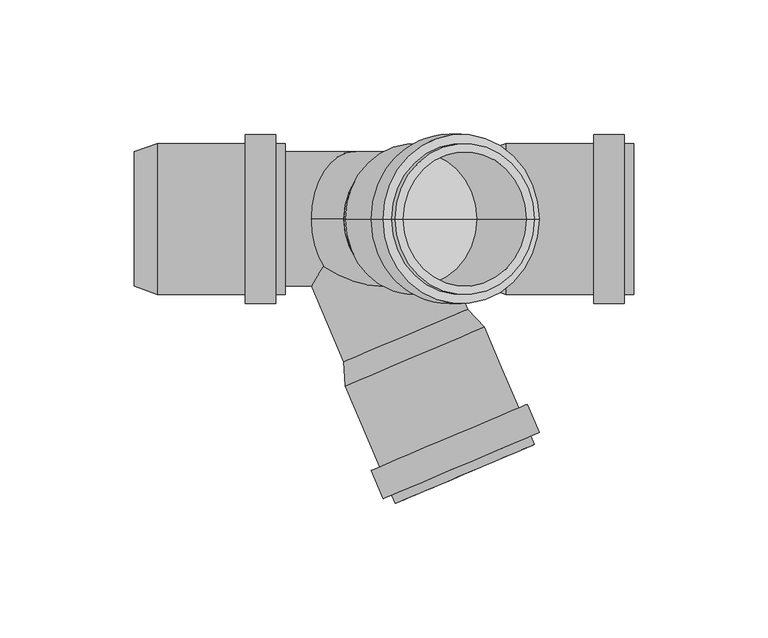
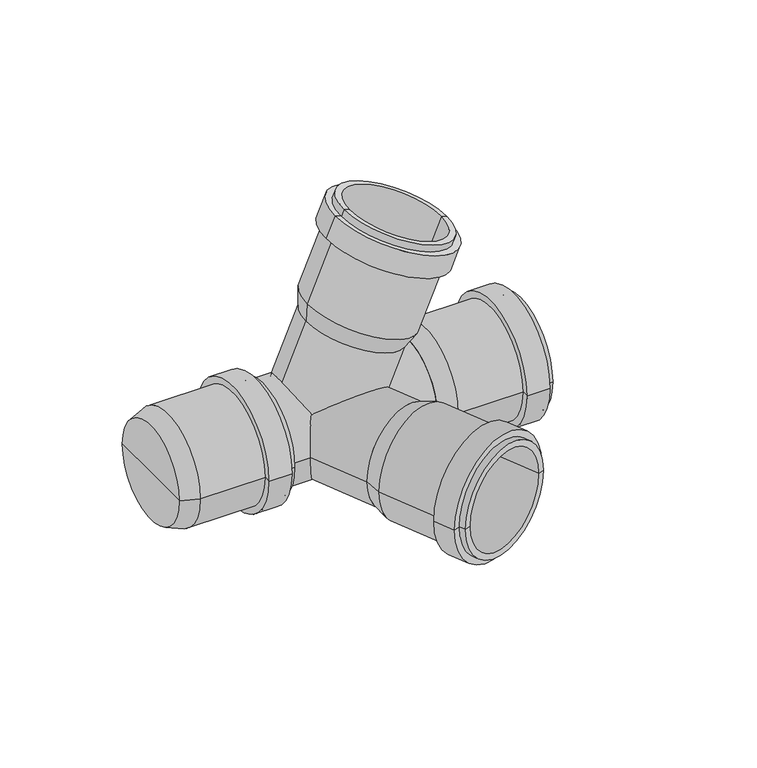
"""IFC4 building model written with IfcOpenShell, lengths in millimetres: pipe fitting geometry, pf_HTED : pf_HTED."""

from ifc_helpers import new_model, si_unit, point, frame, origin, origin_2d, place, context, project, spatial, polyline, circle_curve, trimmed, segment, composite_curve, outline, extrude, source, transform, mapped, element, save
from ifc_brep_helpers import plane_surface, cylinder_surface, revolved_surface, advanced_brep


def pipe_fitting_2f180cf2(model_context):
    return source(origin(), model_context, "Body", "SolidModel", [
        advanced_brep(
        [(41.4160575, 0.0, 33.5875004), (-4.6091852, 0.0, 53.1240568), (-4.1415356, 0.0, 62.1596146), (47.5908371, 0.0, 40.2005251), (18.4034362, 0.0, 43.3557786), (66.1505657, 0.0, 83.9245057), (14.418193, 0.0, 105.8835951), (17.271758, 0.0, 104.6723286), (63.2970007, 0.0, 85.1357722), (64.8220799, 0.0, 80.7947892), (13.0897071, 0.0, 102.7538786), (67.9517964, 0.0, 79.4663033), (9.9599906, 0.0, 104.0823644), (63.4974615, 0.0, 68.972548), (5.5056558, 0.0, 93.5886091), (60.367745, 0.0, 70.3010338), (8.6353723, 0.0, 92.2601233), (44.7372721, 0.0, 41.4117916), (-1.2879706, 0.0, 60.9483481), (21.7246507, 0.0, 51.1800699)],
        [
            (0, 1, circle_curve(frame((18.4034362, 0.0, 43.3557786), z_axis=(0.3907311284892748, 0.0, 0.9205048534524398), x_axis=(-0.9205048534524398, 0.0, 0.3907311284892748)), 25.0)),
            (1, 2),
            (2, 3, circle_curve(frame((21.7246507, 0.0, 51.1800699), z_axis=(-0.3907311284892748, 0.0, -0.9205048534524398), x_axis=(-0.9205048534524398, 0.0, 0.3907311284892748)), 28.1)),
            (3, 0),
            (1, 0, circle_curve(frame((18.4034362, 0.0, 43.3557786), z_axis=(0.3907311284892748, 0.0, 0.9205048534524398), x_axis=(-0.9205048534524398, 0.0, 0.3907311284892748)), 25.0)),
            (3, 2, circle_curve(frame((21.7246507, 0.0, 51.1800699), z_axis=(-0.3907311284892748, 0.0, -0.9205048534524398), x_axis=(-0.9205048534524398, 0.0, 0.3907311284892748)), 28.1)),
            (4, 1),
            (0, 4),
            (5, 6, circle_curve(frame((40.2843793, 0.0, 94.9040504), z_axis=(0.3907311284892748, 0.0, 0.9205048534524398), x_axis=(-0.9205048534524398, 0.0, 0.3907311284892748)), 28.1)),
            (6, 7),
            (7, 8, circle_curve(frame((40.2843793, 0.0, 94.9040504), z_axis=(-0.3907311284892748, 0.0, -0.9205048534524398), x_axis=(-0.9205048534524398, 0.0, 0.3907311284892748)), 25.0)),
            (8, 5),
            (6, 5, circle_curve(frame((40.2843793, 0.0, 94.9040504), z_axis=(0.3907311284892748, 0.0, 0.9205048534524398), x_axis=(-0.9205048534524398, 0.0, 0.3907311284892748)), 28.1)),
            (8, 7, circle_curve(frame((40.2843793, 0.0, 94.9040504), z_axis=(-0.3907311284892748, 0.0, -0.9205048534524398), x_axis=(-0.9205048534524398, 0.0, 0.3907311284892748)), 25.0)),
            (9, 10, circle_curve(frame((38.9558935, 0.0, 91.7743339), z_axis=(0.3907311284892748, 0.0, 0.9205048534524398), x_axis=(-0.9205048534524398, 0.0, 0.3907311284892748)), 28.1)),
            (10, 6),
            (5, 9),
            (10, 9, circle_curve(frame((38.9558935, 0.0, 91.7743339), z_axis=(0.3907311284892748, 0.0, 0.9205048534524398), x_axis=(-0.9205048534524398, 0.0, 0.3907311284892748)), 28.1)),
            (11, 12, circle_curve(frame((38.9558935, 0.0, 91.7743339), z_axis=(0.3907311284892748, 0.0, 0.9205048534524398), x_axis=(-0.9205048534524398, 0.0, 0.3907311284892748)), 31.5)),
            (12, 10),
            (9, 11),
            (12, 11, circle_curve(frame((38.9558935, 0.0, 91.7743339), z_axis=(0.3907311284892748, 0.0, 0.9205048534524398), x_axis=(-0.9205048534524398, 0.0, 0.3907311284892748)), 31.5)),
            (13, 14, circle_curve(frame((34.5015586, 0.0, 81.2805786), z_axis=(0.3907311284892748, 0.0, 0.9205048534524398), x_axis=(-0.9205048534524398, 0.0, 0.3907311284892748)), 31.5)),
            (14, 12),
            (11, 13),
            (14, 13, circle_curve(frame((34.5015586, 0.0, 81.2805786), z_axis=(0.3907311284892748, 0.0, 0.9205048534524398), x_axis=(-0.9205048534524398, 0.0, 0.3907311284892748)), 31.5)),
            (15, 16, circle_curve(frame((34.5015586, 0.0, 81.2805786), z_axis=(0.3907311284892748, 0.0, 0.9205048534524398), x_axis=(-0.9205048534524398, 0.0, 0.3907311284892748)), 28.1)),
            (16, 14),
            (13, 15),
            (16, 15, circle_curve(frame((34.5015586, 0.0, 81.2805786), z_axis=(0.3907311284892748, 0.0, 0.9205048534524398), x_axis=(-0.9205048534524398, 0.0, 0.3907311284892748)), 28.1)),
            (2, 16),
            (15, 3),
            (17, 18, circle_curve(frame((21.7246507, 0.0, 51.1800699), z_axis=(0.3907311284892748, 0.0, 0.9205048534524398), x_axis=(-0.9205048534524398, 0.0, 0.3907311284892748)), 25.0)),
            (18, 19),
            (19, 17),
            (18, 17, circle_curve(frame((21.7246507, 0.0, 51.1800699), z_axis=(0.3907311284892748, 0.0, 0.9205048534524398), x_axis=(-0.9205048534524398, 0.0, 0.3907311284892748)), 25.0)),
            (7, 18),
            (17, 8),
        ],
        [
            revolved_surface(polyline([(-4.1415356, 0.0, 62.1596146), (-4.6091852, 0.0, 53.1240568)]), (18.4034362, 0.0, 43.3557786), (-0.3907311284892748, 0.0, -0.9205048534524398)),
            plane_surface(frame((18.4034362, 0.0, 43.3557786), z_axis=(-0.3907311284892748, 0.0, -0.9205048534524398), x_axis=(-0.9205048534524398, 0.0, 0.3907311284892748))),
            plane_surface(frame((40.2843793, 0.0, 94.9040504), z_axis=(0.3907311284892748, 0.0, 0.9205048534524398), x_axis=(-0.9205048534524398, 0.0, 0.3907311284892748))),
            cylinder_surface(frame((18.4034362, 0.0, 43.3557786), z_axis=(-0.3907311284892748, 0.0, -0.9205048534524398), x_axis=(-0.9205048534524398, 0.0, 0.3907311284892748)), 28.1),
            plane_surface(frame((38.9558935, 0.0, 91.7743339), z_axis=(0.3907311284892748, 0.0, 0.9205048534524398), x_axis=(-0.9205048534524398, 0.0, 0.3907311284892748))),
            cylinder_surface(frame((18.4034362, 0.0, 43.3557786), z_axis=(-0.3907311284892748, 0.0, -0.9205048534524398), x_axis=(-0.9205048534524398, 0.0, 0.3907311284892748)), 31.5),
            plane_surface(frame((34.5015586, 0.0, 81.2805786), z_axis=(-0.3907311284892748, 0.0, -0.9205048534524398), x_axis=(-0.9205048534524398, 0.0, 0.3907311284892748))),
            plane_surface(frame((21.7246507, 0.0, 51.1800699), z_axis=(0.3907311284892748, 0.0, 0.9205048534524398), x_axis=(-0.9205048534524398, 0.0, 0.3907311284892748))),
            revolved_surface(polyline([(-1.2879705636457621, 0.0, 60.948348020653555), (17.27175806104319, 0.0, 104.67232861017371)]), (18.4034362, 0.0, 43.3557786), (-0.3907311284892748, 0.0, -0.9205048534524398)),
        ],
        [
            (0, [[1, 2, 3, 4]]),
            (0, [[5, -4, 6, -2]]),
            (1, [[7, -1, 8]]),
            (1, [[-8, -5, -7]]),
            (2, [[9, 10, 11, 12]]),
            (2, [[13, -12, 14, -10]]),
            (3, [[15, 16, -9, 17]]),
            (3, [[18, -17, -13, -16]]),
            (4, [[19, 20, -15, 21]]),
            (4, [[22, -21, -18, -20]]),
            (5, [[23, 24, -19, 25]]),
            (5, [[26, -25, -22, -24]]),
            (6, [[27, 28, -23, 29]]),
            (6, [[30, -29, -26, -28]]),
            (3, [[-3, 31, -27, 32]]),
            (3, [[-6, -32, -30, -31]]),
            (7, [[33, 34, 35]]),
            (7, [[36, -35, -34]]),
            (8, [[-11, 37, -33, 38]]),
            (8, [[-14, -38, -36, -37]]),
        ],
    ),
        advanced_brep(
        [(-4.6091852, -53.1240568, 0.0), (41.4160575, -33.5875004, 0.0), (47.5908371, -40.2005251, 0.0), (-4.1415356, -62.1596146, 0.0), (18.4034362, -43.3557786, 0.0), (14.418193, -105.8835951, 0.0), (66.1505657, -83.9245057, 0.0), (63.2970007, -85.1357722, 0.0), (17.271758, -104.6723286, 0.0), (13.0897071, -102.7538786, 0.0), (64.8220799, -80.7947892, 0.0), (9.9599906, -104.0823644, 0.0), (67.9517964, -79.4663033, 0.0), (5.5056558, -93.5886091, 0.0), (63.4974615, -68.972548, 0.0), (8.6353723, -92.2601233, 0.0), (60.367745, -70.3010338, 0.0), (-1.2879706, -60.9483481, 0.0), (44.7372721, -41.4117916, 0.0), (21.7246507, -51.1800699, 0.0)],
        [
            (0, 1, circle_curve(frame((18.4034362, -43.3557786, 0.0), z_axis=(0.3907311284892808, -0.9205048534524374, 0.0), x_axis=(0.9205048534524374, 0.3907311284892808, 0.0)), 25.0)),
            (1, 2),
            (2, 3, circle_curve(frame((21.7246507, -51.1800699, 0.0), z_axis=(-0.3907311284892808, 0.9205048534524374, 0.0), x_axis=(0.9205048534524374, 0.3907311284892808, 0.0)), 28.1)),
            (3, 0),
            (1, 0, circle_curve(frame((18.4034362, -43.3557786, 0.0), z_axis=(0.3907311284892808, -0.9205048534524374, 0.0), x_axis=(0.9205048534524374, 0.3907311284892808, 0.0)), 25.0)),
            (3, 2, circle_curve(frame((21.7246507, -51.1800699, 0.0), z_axis=(-0.3907311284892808, 0.9205048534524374, 0.0), x_axis=(0.9205048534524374, 0.3907311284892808, 0.0)), 28.1)),
            (4, 1),
            (0, 4),
            (5, 6, circle_curve(frame((40.2843793, -94.9040504, 0.0), z_axis=(0.3907311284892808, -0.9205048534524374, 0.0), x_axis=(0.9205048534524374, 0.3907311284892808, 0.0)), 28.1)),
            (6, 7),
            (7, 8, circle_curve(frame((40.2843793, -94.9040504, 0.0), z_axis=(-0.3907311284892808, 0.9205048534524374, 0.0), x_axis=(0.9205048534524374, 0.3907311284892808, 0.0)), 25.0)),
            (8, 5),
            (6, 5, circle_curve(frame((40.2843793, -94.9040504, 0.0), z_axis=(0.3907311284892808, -0.9205048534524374, 0.0), x_axis=(0.9205048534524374, 0.3907311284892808, 0.0)), 28.1)),
            (8, 7, circle_curve(frame((40.2843793, -94.9040504, 0.0), z_axis=(-0.3907311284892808, 0.9205048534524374, 0.0), x_axis=(0.9205048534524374, 0.3907311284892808, 0.0)), 25.0)),
            (9, 10, circle_curve(frame((38.9558935, -91.7743339, 0.0), z_axis=(0.3907311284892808, -0.9205048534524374, 0.0), x_axis=(0.9205048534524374, 0.3907311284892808, 0.0)), 28.1)),
            (10, 6),
            (5, 9),
            (10, 9, circle_curve(frame((38.9558935, -91.7743339, 0.0), z_axis=(0.3907311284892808, -0.9205048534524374, 0.0), x_axis=(0.9205048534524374, 0.3907311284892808, 0.0)), 28.1)),
            (11, 12, circle_curve(frame((38.9558935, -91.7743339, 0.0), z_axis=(0.3907311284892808, -0.9205048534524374, 0.0), x_axis=(0.9205048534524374, 0.3907311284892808, 0.0)), 31.5)),
            (12, 10),
            (9, 11),
            (12, 11, circle_curve(frame((38.9558935, -91.7743339, 0.0), z_axis=(0.3907311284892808, -0.9205048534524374, 0.0), x_axis=(0.9205048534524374, 0.3907311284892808, 0.0)), 31.5)),
            (13, 14, circle_curve(frame((34.5015586, -81.2805786, 0.0), z_axis=(0.3907311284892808, -0.9205048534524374, 0.0), x_axis=(0.9205048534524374, 0.3907311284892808, 0.0)), 31.5)),
            (14, 12),
            (11, 13),
            (14, 13, circle_curve(frame((34.5015586, -81.2805786, 0.0), z_axis=(0.3907311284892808, -0.9205048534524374, 0.0), x_axis=(0.9205048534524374, 0.3907311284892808, 0.0)), 31.5)),
            (15, 16, circle_curve(frame((34.5015586, -81.2805786, 0.0), z_axis=(0.3907311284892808, -0.9205048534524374, 0.0), x_axis=(0.9205048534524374, 0.3907311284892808, 0.0)), 28.1)),
            (16, 14),
            (13, 15),
            (16, 15, circle_curve(frame((34.5015586, -81.2805786, 0.0), z_axis=(0.3907311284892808, -0.9205048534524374, 0.0), x_axis=(0.9205048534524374, 0.3907311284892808, 0.0)), 28.1)),
            (2, 16),
            (15, 3),
            (17, 18, circle_curve(frame((21.7246507, -51.1800699, 0.0), z_axis=(0.3907311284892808, -0.9205048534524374, 0.0), x_axis=(0.9205048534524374, 0.3907311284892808, 0.0)), 25.0)),
            (18, 19),
            (19, 17),
            (18, 17, circle_curve(frame((21.7246507, -51.1800699, 0.0), z_axis=(0.3907311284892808, -0.9205048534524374, 0.0), x_axis=(0.9205048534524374, 0.3907311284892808, 0.0)), 25.0)),
            (7, 18),
            (17, 8),
        ],
        [
            revolved_surface(polyline([(47.5908371, -40.2005251, 0.0), (41.4160575, -33.5875004, 0.0)]), (18.4034362, -43.3557786, 0.0), (-0.3907311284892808, 0.9205048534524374, 0.0)),
            plane_surface(frame((18.4034362, -43.3557786, 0.0), z_axis=(-0.3907311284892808, 0.9205048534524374, 0.0), x_axis=(0.9205048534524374, 0.3907311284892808, 0.0))),
            plane_surface(frame((40.2843793, -94.9040504, 0.0), z_axis=(0.3907311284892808, -0.9205048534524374, 0.0), x_axis=(0.9205048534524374, 0.3907311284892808, 0.0))),
            cylinder_surface(frame((18.4034362, -43.3557786, 0.0), z_axis=(-0.3907311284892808, 0.9205048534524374, 0.0), x_axis=(0.9205048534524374, 0.3907311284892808, 0.0)), 28.1),
            plane_surface(frame((38.9558935, -91.7743339, 0.0), z_axis=(0.3907311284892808, -0.9205048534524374, 0.0), x_axis=(0.9205048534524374, 0.3907311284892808, 0.0))),
            cylinder_surface(frame((18.4034362, -43.3557786, 0.0), z_axis=(-0.3907311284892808, 0.9205048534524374, 0.0), x_axis=(0.9205048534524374, 0.3907311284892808, 0.0)), 31.5),
            plane_surface(frame((34.5015586, -81.2805786, 0.0), z_axis=(-0.3907311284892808, 0.9205048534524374, 0.0), x_axis=(0.9205048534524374, 0.3907311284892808, 0.0))),
            plane_surface(frame((21.7246507, -51.1800699, 0.0), z_axis=(0.3907311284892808, -0.9205048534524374, 0.0), x_axis=(0.9205048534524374, 0.3907311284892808, 0.0))),
            revolved_surface(polyline([(44.737272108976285, -41.41179159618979, 0.0), (63.29700073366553, -85.13577218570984, 0.0)]), (18.4034362, -43.3557786, 0.0), (-0.3907311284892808, 0.9205048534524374, 0.0)),
        ],
        [
            (0, [[1, 2, 3, 4]]),
            (0, [[5, -4, 6, -2]]),
            (1, [[7, -1, 8]]),
            (1, [[-8, -5, -7]]),
            (2, [[9, 10, 11, 12]]),
            (2, [[13, -12, 14, -10]]),
            (3, [[15, 16, -9, 17]]),
            (3, [[18, -17, -13, -16]]),
            (4, [[19, 20, -15, 21]]),
            (4, [[22, -21, -18, -20]]),
            (5, [[23, 24, -19, 25]]),
            (5, [[26, -25, -22, -24]]),
            (6, [[27, 28, -23, 29]]),
            (6, [[30, -29, -26, -28]]),
            (3, [[-3, 31, -27, 32]]),
            (3, [[-6, -32, -30, -31]]),
            (7, [[33, 34, 35]]),
            (7, [[36, -35, -34]]),
            (8, [[-11, 37, -33, 38]]),
            (8, [[-14, -38, -36, -37]]),
        ],
    ),
        advanced_brep(
        [(47.1, -25.0, 0.0), (47.1, 25.0, 0.0), (55.6, 28.1, 0.0), (55.6, -28.1, 0.0), (47.1, 0.0, 0.0), (103.1, -28.1, 0.0), (103.1, 28.1, 0.0), (103.1, 25.0, 0.0), (103.1, -25.0, 0.0), (99.7, -28.1, 0.0), (99.7, 28.1, 0.0), (99.7, -31.5, 0.0), (99.7, 31.5, 0.0), (88.3, -31.5, 0.0), (88.3, 31.5, 0.0), (88.3, -28.1, 0.0), (88.3, 28.1, 0.0), (55.6, -25.0, 0.0), (55.6, 25.0, 0.0), (55.6, 0.0, 0.0)],
        [
            (0, 1, circle_curve(frame((47.1, 0.0, 0.0), z_axis=(1.0, 0.0, 0.0), x_axis=(0.0, 1.0, 0.0)), 25.0)),
            (1, 2),
            (2, 3, circle_curve(frame((55.6, 0.0, 0.0), z_axis=(-1.0, 0.0, 0.0), x_axis=(0.0, 1.0, 0.0)), 28.1)),
            (3, 0),
            (1, 0, circle_curve(frame((47.1, 0.0, 0.0), z_axis=(1.0, 0.0, 0.0), x_axis=(0.0, 1.0, 0.0)), 25.0)),
            (3, 2, circle_curve(frame((55.6, 0.0, 0.0), z_axis=(-1.0, 0.0, 0.0), x_axis=(0.0, 1.0, 0.0)), 28.1)),
            (4, 1),
            (0, 4),
            (5, 6, circle_curve(frame((103.1, 0.0, 0.0), z_axis=(1.0, 0.0, 0.0), x_axis=(0.0, 1.0, 0.0)), 28.1)),
            (6, 7),
            (7, 8, circle_curve(frame((103.1, 0.0, 0.0), z_axis=(-1.0, 0.0, 0.0), x_axis=(0.0, 1.0, 0.0)), 25.0)),
            (8, 5),
            (6, 5, circle_curve(frame((103.1, 0.0, 0.0), z_axis=(1.0, 0.0, 0.0), x_axis=(0.0, 1.0, 0.0)), 28.1)),
            (8, 7, circle_curve(frame((103.1, 0.0, 0.0), z_axis=(-1.0, 0.0, 0.0), x_axis=(0.0, 1.0, 0.0)), 25.0)),
            (9, 10, circle_curve(frame((99.7, 0.0, 0.0), z_axis=(1.0, 0.0, 0.0), x_axis=(0.0, 1.0, 0.0)), 28.1)),
            (10, 6),
            (5, 9),
            (10, 9, circle_curve(frame((99.7, 0.0, 0.0), z_axis=(1.0, 0.0, 0.0), x_axis=(0.0, 1.0, 0.0)), 28.1)),
            (11, 12, circle_curve(frame((99.7, 0.0, 0.0), z_axis=(1.0, 0.0, 0.0), x_axis=(0.0, 1.0, 0.0)), 31.5)),
            (12, 10),
            (9, 11),
            (12, 11, circle_curve(frame((99.7, 0.0, 0.0), z_axis=(1.0, 0.0, 0.0), x_axis=(0.0, 1.0, 0.0)), 31.5)),
            (13, 14, circle_curve(frame((88.3, 0.0, 0.0), z_axis=(1.0, 0.0, 0.0), x_axis=(0.0, 1.0, 0.0)), 31.5)),
            (14, 12),
            (11, 13),
            (14, 13, circle_curve(frame((88.3, 0.0, 0.0), z_axis=(1.0, 0.0, 0.0), x_axis=(0.0, 1.0, 0.0)), 31.5)),
            (15, 16, circle_curve(frame((88.3, 0.0, 0.0), z_axis=(1.0, 0.0, 0.0), x_axis=(0.0, 1.0, 0.0)), 28.1)),
            (16, 14),
            (13, 15),
            (16, 15, circle_curve(frame((88.3, 0.0, 0.0), z_axis=(1.0, 0.0, 0.0), x_axis=(0.0, 1.0, 0.0)), 28.1)),
            (2, 16),
            (15, 3),
            (17, 18, circle_curve(frame((55.6, 0.0, 0.0), z_axis=(1.0, 0.0, 0.0), x_axis=(0.0, 1.0, 0.0)), 25.0)),
            (18, 19),
            (19, 17),
            (18, 17, circle_curve(frame((55.6, 0.0, 0.0), z_axis=(1.0, 0.0, 0.0), x_axis=(0.0, 1.0, 0.0)), 25.0)),
            (7, 18),
            (17, 8),
        ],
        [
            revolved_surface(polyline([(55.6, 28.1, 0.0), (47.1, 25.0, 0.0)]), (47.1, 0.0, 0.0), (-1.0, 0.0, 0.0)),
            plane_surface(frame((47.1, 0.0, 0.0), z_axis=(-1.0, 0.0, 0.0), x_axis=(0.0, 1.0, 0.0))),
            plane_surface(frame((103.1, 0.0, 0.0), z_axis=(1.0, 0.0, 0.0), x_axis=(0.0, 1.0, 0.0))),
            cylinder_surface(frame((47.1, 0.0, 0.0), z_axis=(-1.0, 0.0, 0.0), x_axis=(0.0, 1.0, 0.0)), 28.1),
            plane_surface(frame((99.7, 0.0, 0.0), z_axis=(1.0, 0.0, 0.0), x_axis=(0.0, 1.0, 0.0))),
            cylinder_surface(frame((47.1, 0.0, 0.0), z_axis=(-1.0, 0.0, 0.0), x_axis=(0.0, 1.0, 0.0)), 31.5),
            plane_surface(frame((88.3, 0.0, 0.0), z_axis=(-1.0, 0.0, 0.0), x_axis=(0.0, 1.0, 0.0))),
            plane_surface(frame((55.6, 0.0, 0.0), z_axis=(1.0, 0.0, 0.0), x_axis=(0.0, 1.0, 0.0))),
            revolved_surface(polyline([(55.6, 25.0, 0.0), (103.1, 25.0, 0.0)]), (47.1, 0.0, 0.0), (-1.0, 0.0, 0.0)),
        ],
        [
            (0, [[1, 2, 3, 4]]),
            (0, [[5, -4, 6, -2]]),
            (1, [[7, -1, 8]]),
            (1, [[-8, -5, -7]]),
            (2, [[9, 10, 11, 12]]),
            (2, [[13, -12, 14, -10]]),
            (3, [[15, 16, -9, 17]]),
            (3, [[18, -17, -13, -16]]),
            (4, [[19, 20, -15, 21]]),
            (4, [[22, -21, -18, -20]]),
            (5, [[23, 24, -19, 25]]),
            (5, [[26, -25, -22, -24]]),
            (6, [[27, 28, -23, 29]]),
            (6, [[30, -29, -26, -28]]),
            (3, [[-3, 31, -27, 32]]),
            (3, [[-6, -32, -30, -31]]),
            (7, [[33, 34, 35]]),
            (7, [[36, -35, -34]]),
            (8, [[-11, 37, -33, 38]]),
            (8, [[-14, -38, -36, -37]]),
        ],
    ),
        advanced_brep(
        [(-82.5, -25.0, 0.0), (-82.5, 25.0, 0.0), (-74.0, 28.1, 0.0), (-74.0, -28.1, 0.0), (-82.5, 0.0, 0.0), (-26.5, -28.1, 0.0), (-26.5, 28.1, 0.0), (-26.5, 25.0, 0.0), (-26.5, -25.0, 0.0), (-29.9, -28.1, 0.0), (-29.9, 28.1, 0.0), (-29.9, -31.5, 0.0), (-29.9, 31.5, 0.0), (-41.3, -31.5, 0.0), (-41.3, 31.5, 0.0), (-41.3, -28.1, 0.0), (-41.3, 28.1, 0.0), (-74.0, -25.0, 0.0), (-74.0, 25.0, 0.0), (-74.0, 0.0, 0.0)],
        [
            (0, 1, circle_curve(frame((-82.5, 0.0, 0.0), z_axis=(1.0, 0.0, 0.0), x_axis=(0.0, 1.0, 0.0)), 25.0)),
            (1, 2),
            (2, 3, circle_curve(frame((-74.0, 0.0, 0.0), z_axis=(-1.0, 0.0, 0.0), x_axis=(0.0, 1.0, 0.0)), 28.1)),
            (3, 0),
            (1, 0, circle_curve(frame((-82.5, 0.0, 0.0), z_axis=(1.0, 0.0, 0.0), x_axis=(0.0, 1.0, 0.0)), 25.0)),
            (3, 2, circle_curve(frame((-74.0, 0.0, 0.0), z_axis=(-1.0, 0.0, 0.0), x_axis=(0.0, 1.0, 0.0)), 28.1)),
            (4, 1),
            (0, 4),
            (5, 6, circle_curve(frame((-26.5, 0.0, 0.0), z_axis=(1.0, 0.0, 0.0), x_axis=(0.0, 1.0, 0.0)), 28.1)),
            (6, 7),
            (7, 8, circle_curve(frame((-26.5, 0.0, 0.0), z_axis=(-1.0, 0.0, 0.0), x_axis=(0.0, 1.0, 0.0)), 25.0)),
            (8, 5),
            (6, 5, circle_curve(frame((-26.5, 0.0, 0.0), z_axis=(1.0, 0.0, 0.0), x_axis=(0.0, 1.0, 0.0)), 28.1)),
            (8, 7, circle_curve(frame((-26.5, 0.0, 0.0), z_axis=(-1.0, 0.0, 0.0), x_axis=(0.0, 1.0, 0.0)), 25.0)),
            (9, 10, circle_curve(frame((-29.9, 0.0, 0.0), z_axis=(1.0, 0.0, 0.0), x_axis=(0.0, 1.0, 0.0)), 28.1)),
            (10, 6),
            (5, 9),
            (10, 9, circle_curve(frame((-29.9, 0.0, 0.0), z_axis=(1.0, 0.0, 0.0), x_axis=(0.0, 1.0, 0.0)), 28.1)),
            (11, 12, circle_curve(frame((-29.9, 0.0, 0.0), z_axis=(1.0, 0.0, 0.0), x_axis=(0.0, 1.0, 0.0)), 31.5)),
            (12, 10),
            (9, 11),
            (12, 11, circle_curve(frame((-29.9, 0.0, 0.0), z_axis=(1.0, 0.0, 0.0), x_axis=(0.0, 1.0, 0.0)), 31.5)),
            (13, 14, circle_curve(frame((-41.3, 0.0, 0.0), z_axis=(1.0, 0.0, 0.0), x_axis=(0.0, 1.0, 0.0)), 31.5)),
            (14, 12),
            (11, 13),
            (14, 13, circle_curve(frame((-41.3, 0.0, 0.0), z_axis=(1.0, 0.0, 0.0), x_axis=(0.0, 1.0, 0.0)), 31.5)),
            (15, 16, circle_curve(frame((-41.3, 0.0, 0.0), z_axis=(1.0, 0.0, 0.0), x_axis=(0.0, 1.0, 0.0)), 28.1)),
            (16, 14),
            (13, 15),
            (16, 15, circle_curve(frame((-41.3, 0.0, 0.0), z_axis=(1.0, 0.0, 0.0), x_axis=(0.0, 1.0, 0.0)), 28.1)),
            (2, 16),
            (15, 3),
            (17, 18, circle_curve(frame((-74.0, 0.0, 0.0), z_axis=(1.0, 0.0, 0.0), x_axis=(0.0, 1.0, 0.0)), 25.0)),
            (18, 19),
            (19, 17),
            (18, 17, circle_curve(frame((-74.0, 0.0, 0.0), z_axis=(1.0, 0.0, 0.0), x_axis=(0.0, 1.0, 0.0)), 25.0)),
            (7, 18),
            (17, 8),
        ],
        [
            revolved_surface(polyline([(-74.0, 28.1, 0.0), (-82.5, 25.0, 0.0)]), (-82.5, 0.0, 0.0), (-1.0, 0.0, 0.0)),
            plane_surface(frame((-82.5, 0.0, 0.0), z_axis=(-1.0, 0.0, 0.0), x_axis=(0.0, 1.0, 0.0))),
            plane_surface(frame((-26.5, 0.0, 0.0), z_axis=(1.0, 0.0, 0.0), x_axis=(0.0, 1.0, 0.0))),
            cylinder_surface(frame((-82.5, 0.0, 0.0), z_axis=(-1.0, 0.0, 0.0), x_axis=(0.0, 1.0, 0.0)), 28.1),
            plane_surface(frame((-29.9, 0.0, 0.0), z_axis=(1.0, 0.0, 0.0), x_axis=(0.0, 1.0, 0.0))),
            cylinder_surface(frame((-82.5, 0.0, 0.0), z_axis=(-1.0, 0.0, 0.0), x_axis=(0.0, 1.0, 0.0)), 31.5),
            plane_surface(frame((-41.3, 0.0, 0.0), z_axis=(-1.0, 0.0, 0.0), x_axis=(0.0, 1.0, 0.0))),
            plane_surface(frame((-74.0, 0.0, 0.0), z_axis=(1.0, 0.0, 0.0), x_axis=(0.0, 1.0, 0.0))),
            revolved_surface(polyline([(-74.0, 25.0, 0.0), (-26.5, 25.0, 0.0)]), (-82.5, 0.0, 0.0), (-1.0, 0.0, 0.0)),
        ],
        [
            (0, [[1, 2, 3, 4]]),
            (0, [[5, -4, 6, -2]]),
            (1, [[7, -1, 8]]),
            (1, [[-8, -5, -7]]),
            (2, [[9, 10, 11, 12]]),
            (2, [[13, -12, 14, -10]]),
            (3, [[15, 16, -9, 17]]),
            (3, [[18, -17, -13, -16]]),
            (4, [[19, 20, -15, 21]]),
            (4, [[22, -21, -18, -20]]),
            (5, [[23, 24, -19, 25]]),
            (5, [[26, -25, -22, -24]]),
            (6, [[27, 28, -23, 29]]),
            (6, [[30, -29, -26, -28]]),
            (3, [[-3, 31, -27, 32]]),
            (3, [[-6, -32, -30, -31]]),
            (7, [[33, 34, 35]]),
            (7, [[36, -35, -34]]),
            (8, [[-11, 37, -33, 38]]),
            (8, [[-14, -38, -36, -37]]),
        ],
    ),
        extrude(outline(composite_curve([segment(trimmed(circle_curve(origin_2d(), 25.0), [point((0.0, 25.0))], [point((0.0, -25.0))], False, "CARTESIAN"), True, "CONTINUOUS"), segment(trimmed(circle_curve(origin_2d(), 25.0), [point((0.0, -25.0))], [point((0.0, 25.0))], False, "CARTESIAN"), True, "CONTINUOUS")], self_intersect=False)), frame((0.0, 0.0, 0.0), z_axis=(0.3907311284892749, 0.0, 0.9205048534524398), x_axis=(0.0, -1.0, 0.0)), (0.0, 0.0, 1.0), 47.1),
        extrude(outline(composite_curve([segment(trimmed(circle_curve(origin_2d(), 25.0), [point((0.0, -25.0000001))], [point((0.0, 25.0))], False, "CARTESIAN"), True, "CONTINUOUS"), segment(trimmed(circle_curve(origin_2d(), 25.0), [point((0.0, 25.0))], [point((0.0, -25.0000001))], False, "CARTESIAN"), True, "CONTINUOUS")], self_intersect=False)), frame((18.4034362, -43.3557786, 0.0), z_axis=(-0.39073112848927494, 0.9205048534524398, 0.0), x_axis=(0.0, 0.0, 1.0)), (0.0, 0.0, 1.0), 47.1),
        extrude(outline(composite_curve([segment(trimmed(circle_curve(origin_2d(), 25.0), [point((-25.0, 0.0))], [point((25.0, 0.0))], False, "CARTESIAN"), True, "CONTINUOUS"), segment(trimmed(circle_curve(origin_2d(), 25.0), [point((25.0, 0.0))], [point((-25.0, 0.0))], False, "CARTESIAN"), True, "CONTINUOUS")], self_intersect=False)), frame((-74.0, 0.0, 0.0), z_axis=(1.0, 0.0, 0.0), x_axis=(0.0, 1.0, 0.0)), (0.0, 0.0, 1.0), 121.1),
    ])


if __name__ == "__main__":
    model = new_model("IFC4")
    model_context = context("Model", 3, world=origin())
    ifc_project = project(units=[si_unit("LENGTHUNIT", "METRE", prefix="MILLI")], contexts=[model_context])
    site = spatial("IfcSite", under=ifc_project)
    building = spatial("IfcBuilding", under=site)
    placement = place(None, origin())
    pipe_fitting_shape = pipe_fitting_2f180cf2(model_context)
    element("IfcPipeFitting", 1, ObjectType="pf_HTED : pf_HTED", at=placement, inside=building, context=model_context, shape_type="MappedRepresentation", body=[
        mapped(pipe_fitting_shape, transform((0.0, 0.0, 0.0), x_axis=(1.0, 0.0, 0.0), y_axis=(0.0, 1.0, 0.0), z_axis=(0.0, 0.0, 1.0))),
    ])
    save(model, "model.ifc")
